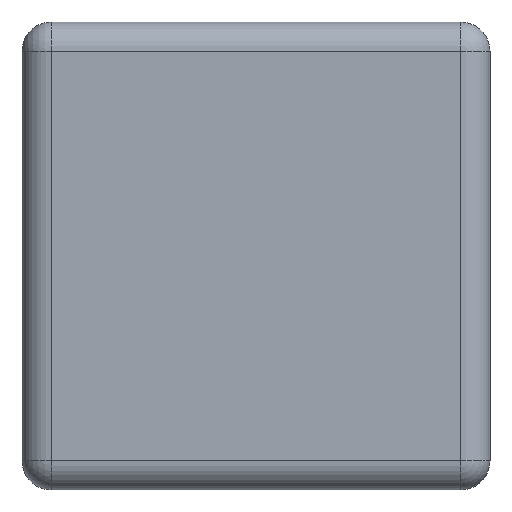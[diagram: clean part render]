
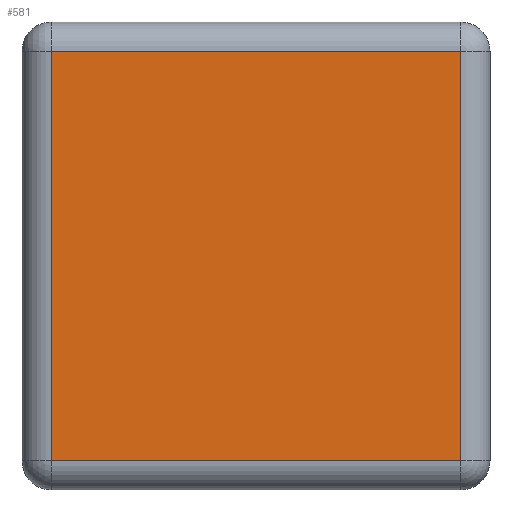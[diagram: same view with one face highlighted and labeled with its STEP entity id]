
A CAD part, left-side view. The second image highlights one B-rep face of the part: STEP entity #581.
In plain terms, the highlighted planar face has unit normal (-1, 0, 0).
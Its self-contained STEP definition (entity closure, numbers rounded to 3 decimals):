
#42 = CARTESIAN_POINT ( 'NONE',  ( -0.8, 0., 0. ) ) ;
#48 = DIRECTION ( 'NONE',  ( 1., 0., 0. ) ) ;
#53 = VECTOR ( 'NONE', #1211, 1000. ) ;
#77 = CARTESIAN_POINT ( 'NONE',  ( -0.8, 0.35, -0.35 ) ) ;
#83 = ORIENTED_EDGE ( 'NONE', *, *, #1023, .T. ) ;
#121 = DIRECTION ( 'NONE',  ( 0., 0., -1. ) ) ;
#221 = VERTEX_POINT ( 'NONE', #267 ) ;
#243 = EDGE_CURVE ( 'NONE', #221, #1126, #1274, .T. ) ;
#267 = CARTESIAN_POINT ( 'NONE',  ( -0.8, -0.35, -0.35 ) ) ;
#352 = CARTESIAN_POINT ( 'NONE',  ( -0.8, -0.35, 0.4 ) ) ;
#359 = FACE_OUTER_BOUND ( 'NONE', #1233, .T. ) ;
#418 = VECTOR ( 'NONE', #679, 1000. ) ;
#458 = PLANE ( 'NONE',  #764 ) ;
#511 = CARTESIAN_POINT ( 'NONE',  ( -0.8, -0.35, 0.35 ) ) ;
#554 = VECTOR ( 'NONE', #787, 1000. ) ;
#558 = VERTEX_POINT ( 'NONE', #886 ) ;
#578 = LINE ( 'NONE', #685, #53 ) ;
#581 = ADVANCED_FACE ( 'NONE', ( #359 ), #458, .F. ) ;
#679 = DIRECTION ( 'NONE',  ( 0., 0., 1. ) ) ;
#685 = CARTESIAN_POINT ( 'NONE',  ( -0.8, 0.4, 0.35 ) ) ;
#698 = CARTESIAN_POINT ( 'NONE',  ( -0.8, -0.4, -0.35 ) ) ;
#734 = CARTESIAN_POINT ( 'NONE',  ( -0.8, 0.35, -0.4 ) ) ;
#764 = AXIS2_PLACEMENT_3D ( 'NONE', #42, #48, #1085 ) ;
#787 = DIRECTION ( 'NONE',  ( 0., -1., 0. ) ) ;
#790 = VECTOR ( 'NONE', #121, 1000. ) ;
#810 = LINE ( 'NONE', #698, #554 ) ;
#886 = CARTESIAN_POINT ( 'NONE',  ( -0.8, 0.35, 0.35 ) ) ;
#920 = ORIENTED_EDGE ( 'NONE', *, *, #1158, .T. ) ;
#948 = LINE ( 'NONE', #734, #790 ) ;
#951 = ORIENTED_EDGE ( 'NONE', *, *, #1047, .T. ) ;
#1023 = EDGE_CURVE ( 'NONE', #1126, #558, #578, .T. ) ;
#1043 = ORIENTED_EDGE ( 'NONE', *, *, #243, .T. ) ;
#1047 = EDGE_CURVE ( 'NONE', #1058, #221, #810, .T. ) ;
#1058 = VERTEX_POINT ( 'NONE', #77 ) ;
#1085 = DIRECTION ( 'NONE',  ( 0., 0., 1. ) ) ;
#1126 = VERTEX_POINT ( 'NONE', #511 ) ;
#1158 = EDGE_CURVE ( 'NONE', #558, #1058, #948, .T. ) ;
#1211 = DIRECTION ( 'NONE',  ( 0., 1., 0. ) ) ;
#1233 = EDGE_LOOP ( 'NONE', ( #83, #920, #951, #1043 ) ) ;
#1274 = LINE ( 'NONE', #352, #418 ) ;
